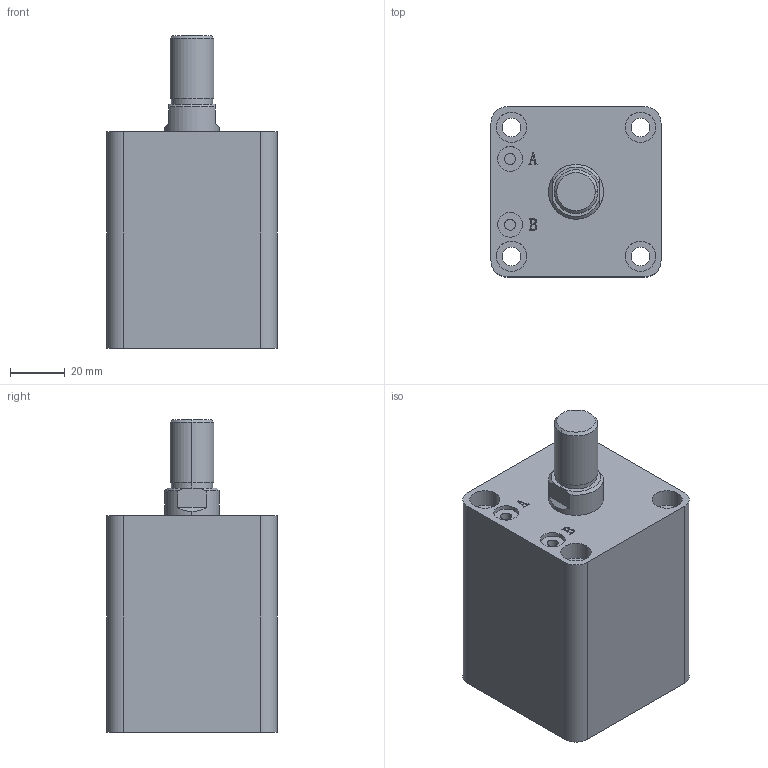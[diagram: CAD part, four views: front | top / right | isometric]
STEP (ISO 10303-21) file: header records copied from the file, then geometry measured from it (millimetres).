
FILE_DESCRIPTION (( 'STEP AP203' ), '1' );
FILE_NAME ('HTB-SDMA32-25W.STEP', '2019-10-07T11:39:26', ( '微软用户' ), ( '微软中国' ), 'SwSTEP 2.0', 'SolidWorks 2012', '' );
FILE_SCHEMA (( 'CONFIG_CONTROL_DESIGN' ));
Length unit declared in the file: millimetre
Products named in the file (3): HTB-SDMA32-25W; HTB-SDMA32-25W活塞杆; HTB-SDMA32-25掛极
Assembly tree (2 placements, depth 2):
  HTB-SDMA32-25W
    HTB-SDMA32-25掛极
    HTB-SDMA32-25W活塞杆
Bounding box: 62 x 62 x 114 mm (x, y, z)
Volume: 281889.4 mm3; surface area: 49314.3 mm2
Topology: 2 solids, 2 shells, 141 faces, 337 edges, 222 vertices
Faces by surface type: plane 67, cylinder 48, bspline 16, torus 6, cone 4
Entity records: 5176 total; most frequent: CARTESIAN_POINT 1593, ORIENTED_EDGE 674, DIRECTION 669, EDGE_CURVE 337, AXIS2_PLACEMENT_3D 242, VERTEX_POINT 222, LINE 185, VECTOR 185
